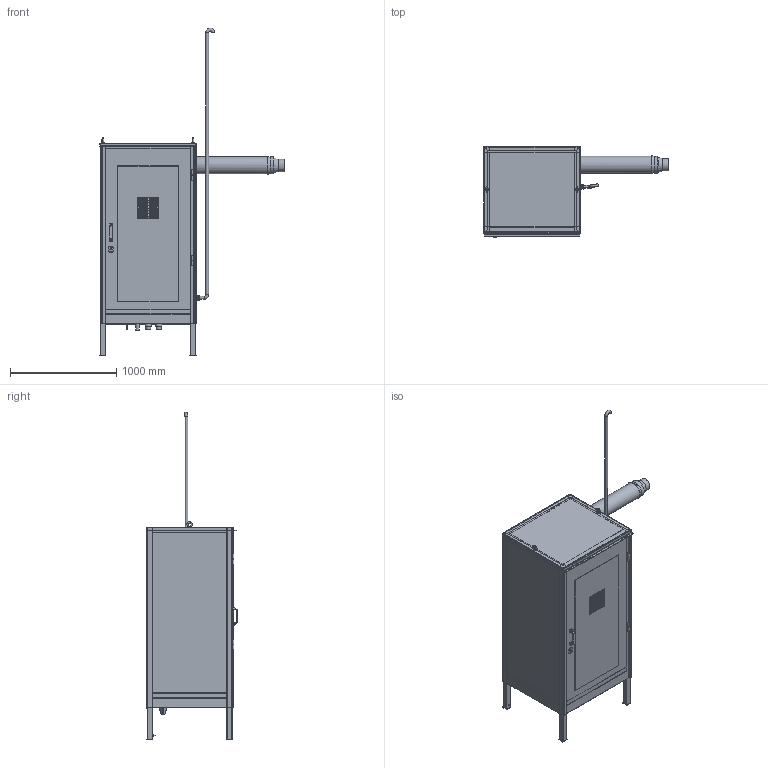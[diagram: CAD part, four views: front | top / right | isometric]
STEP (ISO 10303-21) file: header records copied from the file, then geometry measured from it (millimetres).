
FILE_DESCRIPTION(('STEP AP203'), '1');
FILE_NAME('VS90.00.000 ÊÍÐ10-24êÂò', '', ('UNSPECIFIED'), ('UNSPECIFIED'), 'C3D Converter', 'C3D Toolkit', '');
FILE_SCHEMA(('CONFIG_CONTROL_DESIGN'));
Length unit declared in the file: millimetre
Products named in the file (1): VS90.00.000
Bounding box: 1738.38 x 862.5 x 3089.3 mm (x, y, z)
Volume: 80157436.2 mm3; surface area: 22857803.9 mm2
Topology: 6 solids, 6 shells, 1743 faces, 4536 edges, 2682 vertices
Faces by surface type: plane 966, cylinder 452, torus 143, sphere 96, bspline 44, cone 42
Full cylindrical faces by diameter (mm): 4 x8, 5 x2, 6 x3, 6.2 x2, 6.5 x4, 8 x4, 10 x2, 10.106 x2, 12 x2, 12.5 x4, 13 x4, 14 x3, 18 x2, 20 x1, 20.4 x1, 24 x4, 26 x2, 26.441 x2, 26.8 x1, 27 x1, 27.1 x2, 33 x1, 33.249 x2, 38.9 x1, 41 x2, 47.803 x4, 50 x4, 60 x4, 114 x1, 117 x1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
Entity records: 79321 total; most frequent: CARTESIAN_POINT 23603, DIRECTION 8729, ORIENTED_EDGE 8624, EDGE_CURVE 4312, AXIS2_PLACEMENT_3D 3184, VERTEX_POINT 2680, LINE 2361, VECTOR 2361
